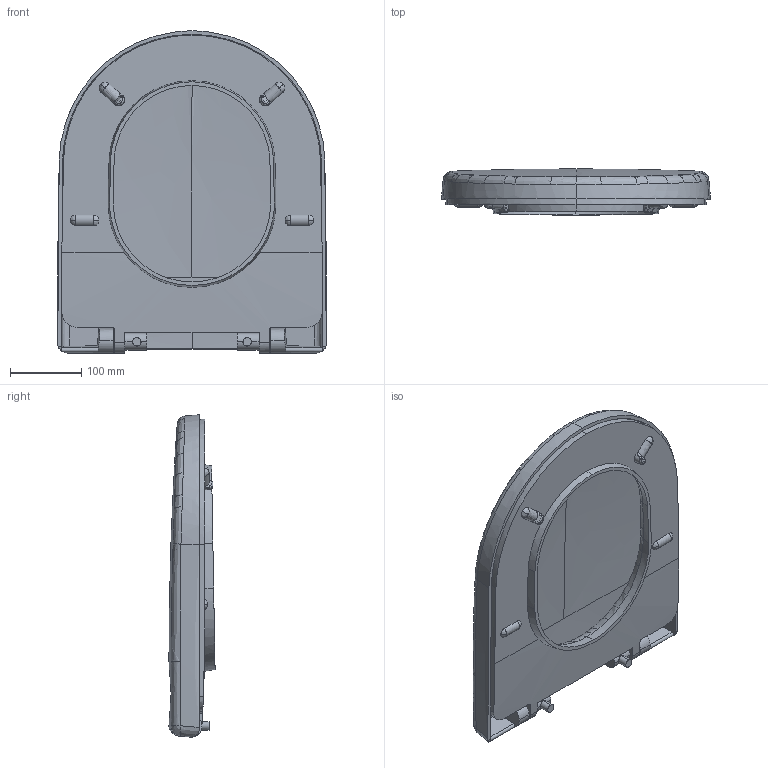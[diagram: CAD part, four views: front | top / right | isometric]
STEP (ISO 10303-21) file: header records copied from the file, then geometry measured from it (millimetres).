
FILE_DESCRIPTION(('CATIA V5 STEP'),'2;1');
FILE_NAME('G:\Laufen Similor\TPM-K\TPE\JStöckli\BIM\Seat\91951\HY91951BIM.stp','2017-01-13T09:00:48+00:00',('none'),('none'),'CATIA Version 5 Release 19 SP 9 (IN-10)','CATIA V5 STEP AP203','none');
FILE_SCHEMA(('CONFIG_CONTROL_DESIGN'));
Length unit declared in the file: millimetre
Products named in the file (1): HY91951BIM
Bounding box: 376.92 x 64.75 x 452.5 mm (x, y, z)
Volume: 2798800.4 mm3; surface area: 629473.3 mm2
Topology: 2 solids, 2 shells, 305 faces, 1018 edges, 711 vertices
Faces by surface type: bspline 226, plane 37, cylinder 32, revolution 10
Entity records: 50949 total; most frequent: CARTESIAN_POINT 44709, ORIENTED_EDGE 1998, EDGE_CURVE 999, B_SPLINE_CURVE_WITH_KNOTS 822, VERTEX_POINT 711, EDGE_LOOP 320, ADVANCED_FACE 305, FACE_OUTER_BOUND 305
